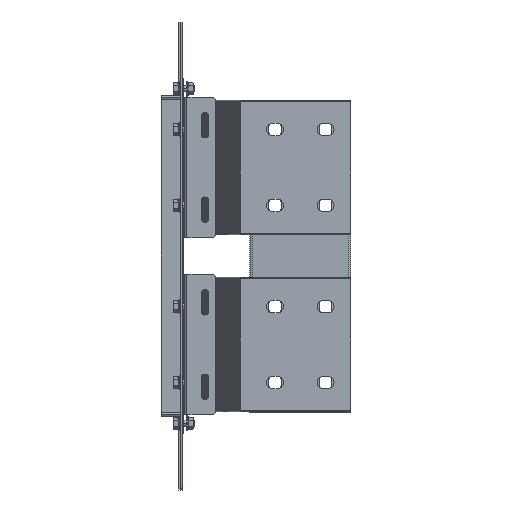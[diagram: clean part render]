
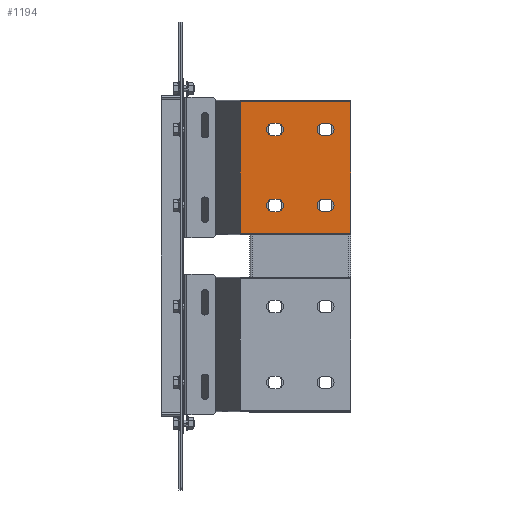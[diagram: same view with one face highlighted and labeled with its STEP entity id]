
A CAD part, front view. The second image highlights one B-rep face of the part: STEP entity #1194.
In plain terms, the highlighted planar face has unit normal (0, -1, 0).
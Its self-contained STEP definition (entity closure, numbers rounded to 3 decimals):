
#1018=AXIS2_PLACEMENT_3D('Circle Axis2P3D',#1016,#1017,$) ;
#1038=AXIS2_PLACEMENT_3D('Plane Axis2P3D',#1035,#1036,#1037) ;
#1076=AXIS2_PLACEMENT_3D('Circle Axis2P3D',#1074,#1075,$) ;
#1094=AXIS2_PLACEMENT_3D('Circle Axis2P3D',#1092,#1093,$) ;
#1110=AXIS2_PLACEMENT_3D('Circle Axis2P3D',#1108,#1109,$) ;
#1128=AXIS2_PLACEMENT_3D('Circle Axis2P3D',#1126,#1127,$) ;
#1144=AXIS2_PLACEMENT_3D('Circle Axis2P3D',#1142,#1143,$) ;
#1171=AXIS2_PLACEMENT_3D('Circle Axis2P3D',#1169,#1170,$) ;
#1185=AXIS2_PLACEMENT_3D('Circle Axis2P3D',#1183,#1184,$) ;
#982=CARTESIAN_POINT('Vertex',(112.5,-151.75,52.5)) ;
#985=CARTESIAN_POINT('Line Origine',(110.,-151.75,52.5)) ;
#989=CARTESIAN_POINT('Vertex',(107.5,-151.75,52.5)) ;
#1016=CARTESIAN_POINT('Axis2P3D Location',(107.5,-151.75,45.)) ;
#1020=CARTESIAN_POINT('Vertex',(107.5,-151.75,37.5)) ;
#1035=CARTESIAN_POINT('Axis2P3D Location',(200.,-151.75,-78.25)) ;
#1040=CARTESIAN_POINT('Line Origine',(134.417,-151.75,-78.25)) ;
#1044=CARTESIAN_POINT('Vertex',(200.,-151.75,-78.25)) ;
#1046=CARTESIAN_POINT('Vertex',(68.835,-151.75,-78.25)) ;
#1049=CARTESIAN_POINT('Line Origine',(200.,-151.75,0.)) ;
#1053=CARTESIAN_POINT('Vertex',(200.,-151.75,78.25)) ;
#1056=CARTESIAN_POINT('Line Origine',(134.417,-151.75,78.25)) ;
#1060=CARTESIAN_POINT('Vertex',(68.835,-151.75,78.25)) ;
#1063=CARTESIAN_POINT('Line Origine',(68.835,-151.75,0.)) ;
#1074=CARTESIAN_POINT('Axis2P3D Location',(112.5,-151.75,45.)) ;
#1078=CARTESIAN_POINT('Vertex',(112.5,-151.75,37.5)) ;
#1081=CARTESIAN_POINT('Line Origine',(110.,-151.75,37.5)) ;
#1092=CARTESIAN_POINT('Axis2P3D Location',(172.5,-151.75,45.)) ;
#1096=CARTESIAN_POINT('Vertex',(172.5,-151.75,37.5)) ;
#1098=CARTESIAN_POINT('Vertex',(172.5,-151.75,52.5)) ;
#1101=CARTESIAN_POINT('Line Origine',(170.,-151.75,37.5)) ;
#1105=CARTESIAN_POINT('Vertex',(167.5,-151.75,37.5)) ;
#1108=CARTESIAN_POINT('Axis2P3D Location',(167.5,-151.75,45.)) ;
#1112=CARTESIAN_POINT('Vertex',(167.5,-151.75,52.5)) ;
#1115=CARTESIAN_POINT('Line Origine',(170.,-151.75,52.5)) ;
#1126=CARTESIAN_POINT('Axis2P3D Location',(107.5,-151.75,-45.)) ;
#1130=CARTESIAN_POINT('Vertex',(107.5,-151.75,-37.5)) ;
#1132=CARTESIAN_POINT('Vertex',(107.5,-151.75,-52.5)) ;
#1135=CARTESIAN_POINT('Line Origine',(110.,-151.75,-37.5)) ;
#1139=CARTESIAN_POINT('Vertex',(112.5,-151.75,-37.5)) ;
#1142=CARTESIAN_POINT('Axis2P3D Location',(112.5,-151.75,-45.)) ;
#1146=CARTESIAN_POINT('Vertex',(112.5,-151.75,-52.5)) ;
#1149=CARTESIAN_POINT('Line Origine',(110.,-151.75,-52.5)) ;
#1160=CARTESIAN_POINT('Line Origine',(170.,-151.75,-37.5)) ;
#1164=CARTESIAN_POINT('Vertex',(172.5,-151.75,-37.5)) ;
#1166=CARTESIAN_POINT('Vertex',(167.5,-151.75,-37.5)) ;
#1169=CARTESIAN_POINT('Axis2P3D Location',(172.5,-151.75,-45.)) ;
#1173=CARTESIAN_POINT('Vertex',(172.5,-151.75,-52.5)) ;
#1176=CARTESIAN_POINT('Line Origine',(170.,-151.75,-52.5)) ;
#1180=CARTESIAN_POINT('Vertex',(167.5,-151.75,-52.5)) ;
#1183=CARTESIAN_POINT('Axis2P3D Location',(167.5,-151.75,-45.)) ;
#986=DIRECTION('Vector Direction',(1.,0.,0.)) ;
#1017=DIRECTION('Axis2P3D Direction',(0.,-1.,0.)) ;
#1036=DIRECTION('Axis2P3D Direction',(0.,-1.,0.)) ;
#1037=DIRECTION('Axis2P3D XDirection',(0.,0.,1.)) ;
#1041=DIRECTION('Vector Direction',(-1.,0.,0.)) ;
#1050=DIRECTION('Vector Direction',(0.,0.,1.)) ;
#1057=DIRECTION('Vector Direction',(-1.,0.,0.)) ;
#1064=DIRECTION('Vector Direction',(0.,0.,1.)) ;
#1075=DIRECTION('Axis2P3D Direction',(0.,-1.,0.)) ;
#1082=DIRECTION('Vector Direction',(-1.,0.,0.)) ;
#1093=DIRECTION('Axis2P3D Direction',(0.,-1.,0.)) ;
#1102=DIRECTION('Vector Direction',(1.,0.,0.)) ;
#1109=DIRECTION('Axis2P3D Direction',(0.,-1.,0.)) ;
#1116=DIRECTION('Vector Direction',(-1.,0.,0.)) ;
#1127=DIRECTION('Axis2P3D Direction',(0.,-1.,0.)) ;
#1136=DIRECTION('Vector Direction',(-1.,0.,0.)) ;
#1143=DIRECTION('Axis2P3D Direction',(0.,-1.,0.)) ;
#1150=DIRECTION('Vector Direction',(1.,0.,0.)) ;
#1161=DIRECTION('Vector Direction',(1.,0.,0.)) ;
#1170=DIRECTION('Axis2P3D Direction',(0.,-1.,0.)) ;
#1177=DIRECTION('Vector Direction',(-1.,0.,0.)) ;
#1184=DIRECTION('Axis2P3D Direction',(0.,-1.,0.)) ;
#987=VECTOR('Line Direction',#986,1.) ;
#1042=VECTOR('Line Direction',#1041,1.) ;
#1051=VECTOR('Line Direction',#1050,1.) ;
#1058=VECTOR('Line Direction',#1057,1.) ;
#1065=VECTOR('Line Direction',#1064,1.) ;
#1083=VECTOR('Line Direction',#1082,1.) ;
#1103=VECTOR('Line Direction',#1102,1.) ;
#1117=VECTOR('Line Direction',#1116,1.) ;
#1137=VECTOR('Line Direction',#1136,1.) ;
#1151=VECTOR('Line Direction',#1150,1.) ;
#1162=VECTOR('Line Direction',#1161,1.) ;
#1178=VECTOR('Line Direction',#1177,1.) ;
#1069=ORIENTED_EDGE('',*,*,#1048,.F.) ;
#1070=ORIENTED_EDGE('',*,*,#1055,.F.) ;
#1071=ORIENTED_EDGE('',*,*,#1062,.T.) ;
#1072=ORIENTED_EDGE('',*,*,#1067,.F.) ;
#1087=ORIENTED_EDGE('',*,*,#1080,.F.) ;
#1088=ORIENTED_EDGE('',*,*,#1085,.F.) ;
#1089=ORIENTED_EDGE('',*,*,#1022,.F.) ;
#1090=ORIENTED_EDGE('',*,*,#991,.F.) ;
#1121=ORIENTED_EDGE('',*,*,#1100,.F.) ;
#1122=ORIENTED_EDGE('',*,*,#1107,.F.) ;
#1123=ORIENTED_EDGE('',*,*,#1114,.F.) ;
#1124=ORIENTED_EDGE('',*,*,#1119,.F.) ;
#1155=ORIENTED_EDGE('',*,*,#1134,.F.) ;
#1156=ORIENTED_EDGE('',*,*,#1141,.F.) ;
#1157=ORIENTED_EDGE('',*,*,#1148,.F.) ;
#1158=ORIENTED_EDGE('',*,*,#1153,.F.) ;
#1189=ORIENTED_EDGE('',*,*,#1168,.F.) ;
#1190=ORIENTED_EDGE('',*,*,#1175,.F.) ;
#1191=ORIENTED_EDGE('',*,*,#1182,.F.) ;
#1192=ORIENTED_EDGE('',*,*,#1187,.F.) ;
#1091=FACE_BOUND('',#1086,.T.) ;
#1125=FACE_BOUND('',#1120,.T.) ;
#1159=FACE_BOUND('',#1154,.T.) ;
#1193=FACE_BOUND('',#1188,.T.) ;
#1194=ADVANCED_FACE('N',(#1073,#1091,#1125,#1159,#1193),#1039,.T.) ;
#1019=CIRCLE('generated circle',#1018,7.5) ;
#1077=CIRCLE('generated circle',#1076,7.5) ;
#1095=CIRCLE('generated circle',#1094,7.5) ;
#1111=CIRCLE('generated circle',#1110,7.5) ;
#1129=CIRCLE('generated circle',#1128,7.5) ;
#1145=CIRCLE('generated circle',#1144,7.5) ;
#1172=CIRCLE('generated circle',#1171,7.5) ;
#1186=CIRCLE('generated circle',#1185,7.5) ;
#991=EDGE_CURVE('',#983,#990,#988,.F.) ;
#1022=EDGE_CURVE('',#990,#1021,#1019,.T.) ;
#1048=EDGE_CURVE('',#1045,#1047,#1043,.T.) ;
#1055=EDGE_CURVE('',#1054,#1045,#1052,.F.) ;
#1062=EDGE_CURVE('',#1054,#1061,#1059,.T.) ;
#1067=EDGE_CURVE('',#1047,#1061,#1066,.T.) ;
#1080=EDGE_CURVE('',#1079,#983,#1077,.T.) ;
#1085=EDGE_CURVE('',#1021,#1079,#1084,.F.) ;
#1100=EDGE_CURVE('',#1097,#1099,#1095,.T.) ;
#1107=EDGE_CURVE('',#1106,#1097,#1104,.T.) ;
#1114=EDGE_CURVE('',#1113,#1106,#1111,.T.) ;
#1119=EDGE_CURVE('',#1099,#1113,#1118,.T.) ;
#1134=EDGE_CURVE('',#1131,#1133,#1129,.T.) ;
#1141=EDGE_CURVE('',#1140,#1131,#1138,.T.) ;
#1148=EDGE_CURVE('',#1147,#1140,#1145,.T.) ;
#1153=EDGE_CURVE('',#1133,#1147,#1152,.T.) ;
#1168=EDGE_CURVE('',#1165,#1167,#1163,.F.) ;
#1175=EDGE_CURVE('',#1174,#1165,#1172,.T.) ;
#1182=EDGE_CURVE('',#1181,#1174,#1179,.F.) ;
#1187=EDGE_CURVE('',#1167,#1181,#1186,.T.) ;
#1068=EDGE_LOOP('',(#1069,#1070,#1071,#1072)) ;
#1086=EDGE_LOOP('',(#1087,#1088,#1089,#1090)) ;
#1120=EDGE_LOOP('',(#1121,#1122,#1123,#1124)) ;
#1154=EDGE_LOOP('',(#1155,#1156,#1157,#1158)) ;
#1188=EDGE_LOOP('',(#1189,#1190,#1191,#1192)) ;
#1073=FACE_OUTER_BOUND('',#1068,.T.) ;
#988=LINE('Line',#985,#987) ;
#1043=LINE('Line',#1040,#1042) ;
#1052=LINE('Line',#1049,#1051) ;
#1059=LINE('Line',#1056,#1058) ;
#1066=LINE('Line',#1063,#1065) ;
#1084=LINE('Line',#1081,#1083) ;
#1104=LINE('Line',#1101,#1103) ;
#1118=LINE('Line',#1115,#1117) ;
#1138=LINE('Line',#1135,#1137) ;
#1152=LINE('Line',#1149,#1151) ;
#1163=LINE('Line',#1160,#1162) ;
#1179=LINE('Line',#1176,#1178) ;
#1039=PLANE('',#1038) ;
#983=VERTEX_POINT('',#982) ;
#990=VERTEX_POINT('',#989) ;
#1021=VERTEX_POINT('',#1020) ;
#1045=VERTEX_POINT('',#1044) ;
#1047=VERTEX_POINT('',#1046) ;
#1054=VERTEX_POINT('',#1053) ;
#1061=VERTEX_POINT('',#1060) ;
#1079=VERTEX_POINT('',#1078) ;
#1097=VERTEX_POINT('',#1096) ;
#1099=VERTEX_POINT('',#1098) ;
#1106=VERTEX_POINT('',#1105) ;
#1113=VERTEX_POINT('',#1112) ;
#1131=VERTEX_POINT('',#1130) ;
#1133=VERTEX_POINT('',#1132) ;
#1140=VERTEX_POINT('',#1139) ;
#1147=VERTEX_POINT('',#1146) ;
#1165=VERTEX_POINT('',#1164) ;
#1167=VERTEX_POINT('',#1166) ;
#1174=VERTEX_POINT('',#1173) ;
#1181=VERTEX_POINT('',#1180) ;
